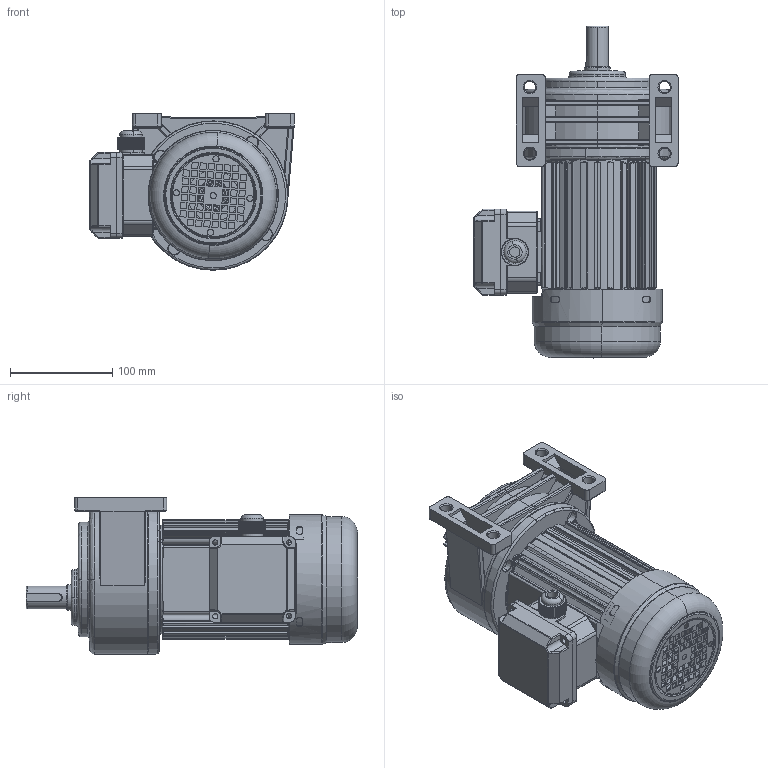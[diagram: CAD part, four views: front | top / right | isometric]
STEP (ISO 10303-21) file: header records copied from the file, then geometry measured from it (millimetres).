
FILE_DESCRIPTION (( 'STEP AP203' ), '1' );
FILE_NAME ('200W饜2#湍价陬拏宒.STEP', '2020-04-17T03:19:55', ( '' ), ( '' ), 'SwSTEP 2.0', 'SolidWorks 2019', '' );
FILE_SCHEMA (( 'CONFIG_CONTROL_DESIGN' ));
Length unit declared in the file: millimetre
Products named in the file (7): 100W价陬瑞欶; 湍价陬諉盄碟裔; 蜊輛綴諉盄碟釱3; 200W饜2#拏宒; 諉芛; 200W饜2#湍价陬拏宒; 100W棠憤迖殤
Assembly tree (6 placements, depth 2):
  200W饜2#湍价陬拏宒
    200W饜2#拏宒
    100W棠憤迖殤
    100W价陬瑞欶
    蜊輛綴諉盄碟釱3
    諉芛
    湍价陬諉盄碟裔
Bounding box: 199.5 x 324.5 x 153 mm (x, y, z)
Volume: 1867097.9 mm3; surface area: 481428.7 mm2
Topology: 8 solids, 8 shells, 2386 faces, 6258 edges, 3911 vertices
Faces by surface type: cylinder 782, plane 750, bspline 376, torus 266, cone 156, sphere 56
Entity records: 97430 total; most frequent: CARTESIAN_POINT 40723, ORIENTED_EDGE 12400, DIRECTION 10902, EDGE_CURVE 6200, AXIS2_PLACEMENT_3D 4114, VERTEX_POINT 3909, LINE 2674, VECTOR 2674
